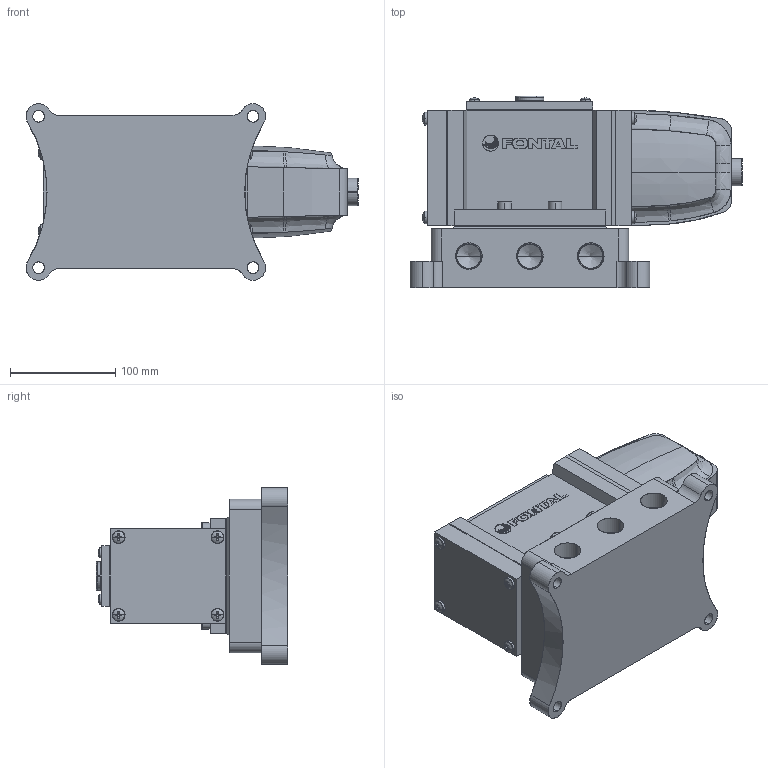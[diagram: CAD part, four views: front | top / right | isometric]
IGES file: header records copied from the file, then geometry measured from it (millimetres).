
Start section: SolidWorks IGES file using analytic representation for surfaces
Global section: file name: D:\Custom\3D繪製\A\A25\AS2425-08-##.IGS,1; native system: 5HSolidWorks 2014; preprocessor: SolidWorks 2014; author: Chieh_Lu; date: 151223.135309; units: millimetre
Bounding box: 315.9 x 182.5 x 168 mm (x, y, z)
Surface area: 392631.4 mm2 (no closed solid volume)
Topology: 0 solids, 0 shells, 838 faces, 8860 edges, 8818 vertices
Faces by surface type: bspline 532, revolution 306
